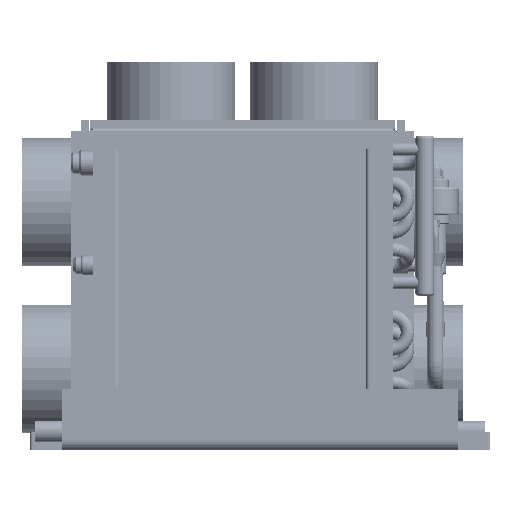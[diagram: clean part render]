
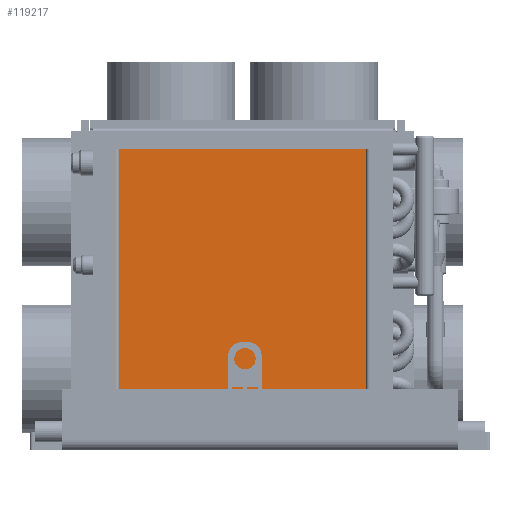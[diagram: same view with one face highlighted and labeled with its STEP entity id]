
A CAD part, top view. The second image highlights one B-rep face of the part: STEP entity #119217.
In plain terms, the highlighted planar face has unit normal (0, 0, 1) as drawn and (-1, 0, 0) by its records, which use the part's own axes.
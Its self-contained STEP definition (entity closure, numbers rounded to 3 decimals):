
#4673=PLANE('',#126834);
#9770=FACE_OUTER_BOUND('',#16558,.T.);
#16558=EDGE_LOOP('',(#84042,#84043,#84044,#84045));
#24258=LINE('',#171223,#36852);
#24260=LINE('',#171227,#36854);
#24261=LINE('',#171229,#36855);
#24262=LINE('',#171230,#36856);
#36852=VECTOR('',#138265,1000.);
#36854=VECTOR('',#138269,1000.);
#36855=VECTOR('',#138270,1000.);
#36856=VECTOR('',#138271,1000.);
#52992=VERTEX_POINT('',#171220);
#52993=VERTEX_POINT('',#171222);
#52994=VERTEX_POINT('',#171226);
#52995=VERTEX_POINT('',#171228);
#65118=EDGE_CURVE('',#52993,#52992,#24258,.T.);
#65120=EDGE_CURVE('',#52992,#52994,#24260,.T.);
#65121=EDGE_CURVE('',#52995,#52994,#24261,.T.);
#65122=EDGE_CURVE('',#52993,#52995,#24262,.T.);
#84042=ORIENTED_EDGE('',*,*,#65120,.T.);
#84043=ORIENTED_EDGE('',*,*,#65121,.F.);
#84044=ORIENTED_EDGE('',*,*,#65122,.F.);
#84045=ORIENTED_EDGE('',*,*,#65118,.T.);
#119217=ADVANCED_FACE('',(#9770),#4673,.F.);
#126834=AXIS2_PLACEMENT_3D('',#171225,#138267,#138268);
#138265=DIRECTION('',(0.,0.,-1.));
#138267=DIRECTION('center_axis',(1.,0.,0.));
#138268=DIRECTION('ref_axis',(0.,1.,0.));
#138269=DIRECTION('',(0.,-1.,0.));
#138270=DIRECTION('',(0.,0.,-1.));
#138271=DIRECTION('',(0.,-1.,0.));
#171220=CARTESIAN_POINT('',(-21.65,100.,-92.5));
#171222=CARTESIAN_POINT('',(-21.65,100.,92.5));
#171223=CARTESIAN_POINT('',(-21.65,100.,92.5));
#171225=CARTESIAN_POINT('Origin',(-21.65,100.,92.5));
#171226=CARTESIAN_POINT('',(-21.65,-100.,-92.5));
#171227=CARTESIAN_POINT('',(-21.65,100.,-92.5));
#171228=CARTESIAN_POINT('',(-21.65,-100.,92.5));
#171229=CARTESIAN_POINT('',(-21.65,-100.,92.5));
#171230=CARTESIAN_POINT('',(-21.65,100.,92.5));
